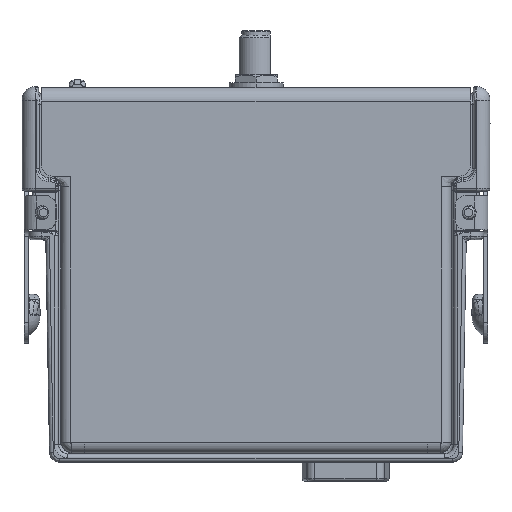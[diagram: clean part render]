
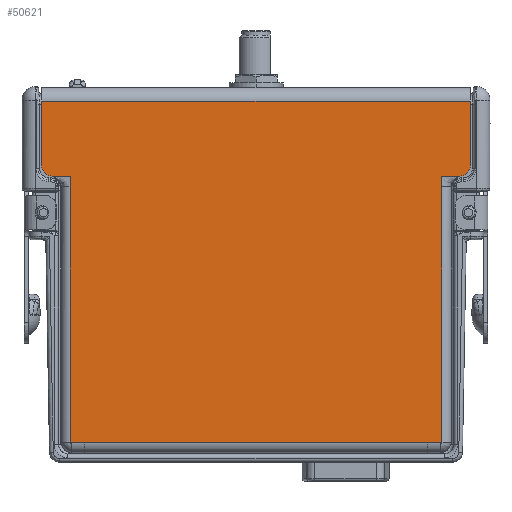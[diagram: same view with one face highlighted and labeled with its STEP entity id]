
A CAD part, left-side view. The second image highlights one B-rep face of the part: STEP entity #50621.
In plain terms, the highlighted planar face has unit normal (-1, 0, 0).
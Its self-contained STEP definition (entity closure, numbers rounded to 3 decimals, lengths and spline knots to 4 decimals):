
#48532=DIRECTION('',(0.,0.,-1.));
#48533=VECTOR('',#48532,0.476);
#48534=CARTESIAN_POINT('',(-0.4475,1.5895,2.676));
#48535=LINE('',#48534,#48533);
#48536=DIRECTION('',(0.,0.,1.));
#48537=VECTOR('',#48536,0.476);
#48538=CARTESIAN_POINT('',(-0.4475,-1.5895,2.2));
#48539=LINE('',#48538,#48537);
#48540=DIRECTION('',(0.,0.,-1.));
#48541=VECTOR('',#48540,0.079);
#48542=CARTESIAN_POINT('',(-0.4475,-1.3765,2.12));
#48543=LINE('',#48542,#48541);
#48544=DIRECTION('',(0.,1.,0.));
#48545=VECTOR('',#48544,0.105);
#48546=CARTESIAN_POINT('',(-0.4475,-1.3765,0.146));
#48547=LINE('',#48546,#48545);
#48548=DIRECTION('',(0.,1.,0.));
#48549=VECTOR('',#48548,0.105);
#48550=CARTESIAN_POINT('',(-0.4475,1.2715,0.146));
#48551=LINE('',#48550,#48549);
#48552=DIRECTION('',(0.,0.,1.));
#48553=VECTOR('',#48552,0.079);
#48554=CARTESIAN_POINT('',(-0.4475,1.3765,2.041));
#48555=LINE('',#48554,#48553);
#48700=DIRECTION('',(0.,-1.,0.));
#48701=VECTOR('',#48700,0.133);
#48702=CARTESIAN_POINT('',(-0.4475,1.5095,2.12));
#48703=LINE('',#48702,#48701);
#48720=DIRECTION('',(0.,-1.,0.));
#48721=VECTOR('',#48720,0.133);
#48722=CARTESIAN_POINT('',(-0.4475,-1.3765,2.12));
#48723=LINE('',#48722,#48721);
#48865=DIRECTION('',(0.,-1.,0.));
#48866=VECTOR('',#48865,3.179);
#48867=CARTESIAN_POINT('',(-0.4475,1.5895,2.676));
#48868=LINE('',#48867,#48866);
#48968=DIRECTION('',(0.,-1.,0.));
#48969=VECTOR('',#48968,2.543);
#48970=CARTESIAN_POINT('',(-0.4475,1.2715,0.146));
#48971=LINE('',#48970,#48969);
#49000=DIRECTION('',(0.,0.,1.));
#49001=VECTOR('',#49000,1.895);
#49002=CARTESIAN_POINT('',(-0.4475,-1.3765,0.146));
#49003=LINE('',#49002,#49001);
#49074=DIRECTION('',(0.,0.,1.));
#49075=VECTOR('',#49074,1.895);
#49076=CARTESIAN_POINT('',(-0.4475,1.3765,0.146));
#49077=LINE('',#49076,#49075);
#49341=CARTESIAN_POINT('',(-0.4475,1.5095,2.2));
#49342=DIRECTION('',(-1.,0.,0.));
#49343=DIRECTION('',(0.,1.,0.));
#49344=AXIS2_PLACEMENT_3D('',#49341,#49342,#49343);
#49359=CARTESIAN_POINT('',(-0.4475,-1.5095,2.2));
#49360=DIRECTION('',(-1.,0.,0.));
#49361=DIRECTION('',(0.,0.,-1.));
#49362=AXIS2_PLACEMENT_3D('',#49359,#49360,#49361);
#50206=CARTESIAN_POINT('',(-0.4475,-1.5895,2.676));
#50207=VERTEX_POINT('',#50206);
#50208=CARTESIAN_POINT('',(-0.4475,1.5895,2.676));
#50209=VERTEX_POINT('',#50208);
#50238=CARTESIAN_POINT('',(-0.4475,1.2715,0.146));
#50239=CARTESIAN_POINT('',(-0.4475,-1.2715,0.146));
#50240=VERTEX_POINT('',#50238);
#50241=VERTEX_POINT('',#50239);
#50250=CARTESIAN_POINT('',(-0.4475,-1.3765,0.146));
#50251=VERTEX_POINT('',#50250);
#50262=CARTESIAN_POINT('',(-0.4475,1.3765,0.146));
#50263=VERTEX_POINT('',#50262);
#50319=CARTESIAN_POINT('',(-0.4475,1.5095,2.12));
#50321=VERTEX_POINT('',#50319);
#50324=CARTESIAN_POINT('',(-0.4475,1.5895,2.2));
#50325=VERTEX_POINT('',#50324);
#50327=CARTESIAN_POINT('',(-0.4475,-1.5895,2.2));
#50329=VERTEX_POINT('',#50327);
#50332=CARTESIAN_POINT('',(-0.4475,-1.5095,2.12));
#50333=VERTEX_POINT('',#50332);
#50354=CARTESIAN_POINT('',(-0.4475,-1.3765,2.041));
#50355=VERTEX_POINT('',#50354);
#50358=CARTESIAN_POINT('',(-0.4475,-1.3765,2.12));
#50359=VERTEX_POINT('',#50358);
#50404=CARTESIAN_POINT('',(-0.4475,1.3765,2.041));
#50405=CARTESIAN_POINT('',(-0.4475,1.3765,2.12));
#50406=VERTEX_POINT('',#50404);
#50407=VERTEX_POINT('',#50405);
#50586=CARTESIAN_POINT('',(-0.4475,0.,1.421));
#50587=DIRECTION('',(-1.,0.,0.));
#50588=DIRECTION('',(0.,1.,0.));
#50589=AXIS2_PLACEMENT_3D('',#50586,#50587,#50588);
#50590=PLANE('',#50589);
#50592=ORIENTED_EDGE('',*,*,#50591,.F.);
#50594=ORIENTED_EDGE('',*,*,#50593,.F.);
#50596=ORIENTED_EDGE('',*,*,#50595,.T.);
#50598=ORIENTED_EDGE('',*,*,#50597,.F.);
#50600=ORIENTED_EDGE('',*,*,#50599,.F.);
#50602=ORIENTED_EDGE('',*,*,#50601,.F.);
#50604=ORIENTED_EDGE('',*,*,#50603,.T.);
#50606=ORIENTED_EDGE('',*,*,#50605,.F.);
#50608=ORIENTED_EDGE('',*,*,#50607,.T.);
#50610=ORIENTED_EDGE('',*,*,#50609,.F.);
#50612=ORIENTED_EDGE('',*,*,#50611,.T.);
#50614=ORIENTED_EDGE('',*,*,#50613,.T.);
#50616=ORIENTED_EDGE('',*,*,#50615,.T.);
#50618=ORIENTED_EDGE('',*,*,#50617,.F.);
#50619=EDGE_LOOP('',(#50592,#50594,#50596,#50598,#50600,#50602,#50604,#50606,
#50608,#50610,#50612,#50614,#50616,#50618));
#50620=FACE_OUTER_BOUND('',#50619,.F.);
#50621=ADVANCED_FACE('',(#50620),#50590,.T.);
#49345=CIRCLE('',#49344,0.08);
#49363=CIRCLE('',#49362,0.08);
#50591=EDGE_CURVE('',#50325,#50321,#49345,.T.);
#50593=EDGE_CURVE('',#50209,#50325,#48535,.T.);
#50595=EDGE_CURVE('',#50209,#50207,#48868,.T.);
#50597=EDGE_CURVE('',#50329,#50207,#48539,.T.);
#50599=EDGE_CURVE('',#50333,#50329,#49363,.T.);
#50601=EDGE_CURVE('',#50359,#50333,#48723,.T.);
#50603=EDGE_CURVE('',#50359,#50355,#48543,.T.);
#50605=EDGE_CURVE('',#50251,#50355,#49003,.T.);
#50607=EDGE_CURVE('',#50251,#50241,#48547,.T.);
#50609=EDGE_CURVE('',#50240,#50241,#48971,.T.);
#50611=EDGE_CURVE('',#50240,#50263,#48551,.T.);
#50613=EDGE_CURVE('',#50263,#50406,#49077,.T.);
#50615=EDGE_CURVE('',#50406,#50407,#48555,.T.);
#50617=EDGE_CURVE('',#50321,#50407,#48703,.T.);
